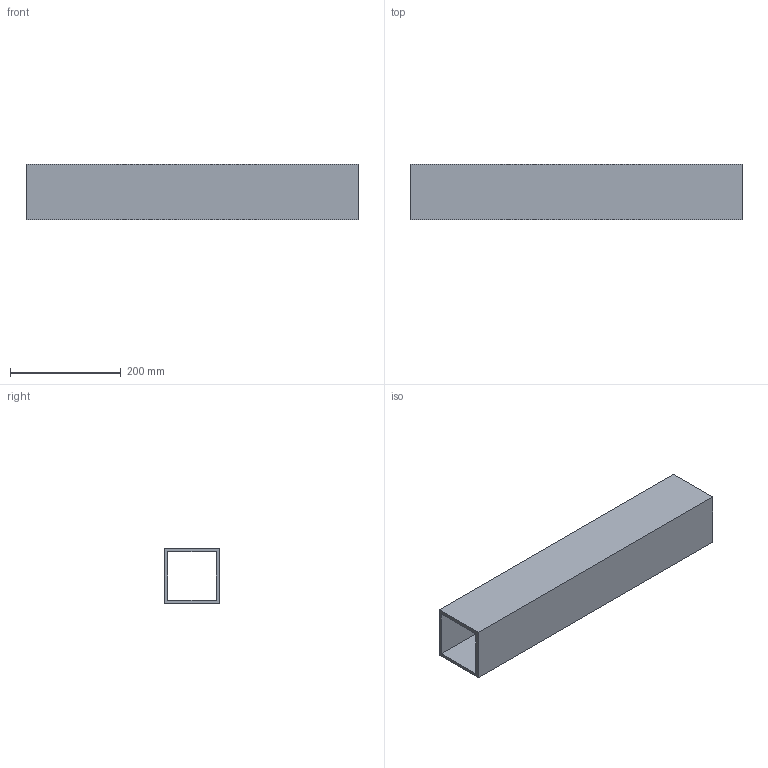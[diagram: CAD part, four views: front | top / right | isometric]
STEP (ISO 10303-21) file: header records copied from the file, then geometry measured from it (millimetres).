
FILE_DESCRIPTION(('Open CASCADE Model'),'2;1');
FILE_NAME('Open CASCADE Shape Model','2026-09-19T12:55:26',('Author'),( 'Open CASCADE'),'Open CASCADE STEP processor 7.9','Open CASCADE 7.9' ,'Unknown');
FILE_SCHEMA(('AUTOMOTIVE_DESIGN { 1 0 10303 214 1 1 1 1 }'));
Length unit declared in the file: millimetre
Products named in the file (1): Open CASCADE STEP translator 7.9 485
Bounding box: 599 x 100 x 100 mm (x, y, z)
Volume: 1351344 mm3; surface area: 454960 mm2
Topology: 1 solids, 1 shells, 10 faces, 24 edges, 16 vertices
Faces by surface type: plane 10
Entity records: 614 total; most frequent: CARTESIAN_POINT 99, DIRECTION 94, LINE 72, VECTOR 72, ORIENTED_EDGE 48, PCURVE 48, DEFINITIONAL_REPRESENTATION 48, EDGE_CURVE 24
